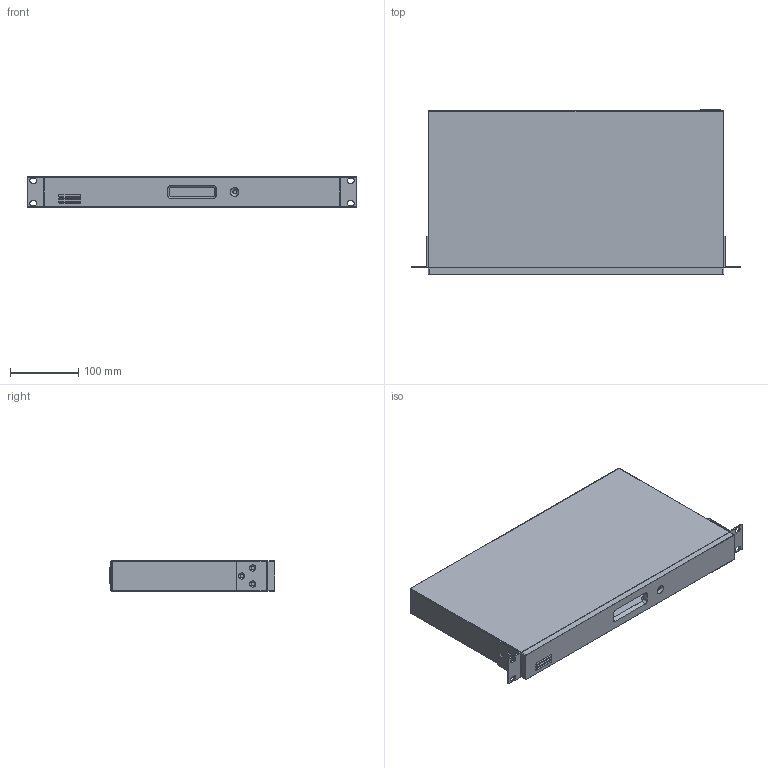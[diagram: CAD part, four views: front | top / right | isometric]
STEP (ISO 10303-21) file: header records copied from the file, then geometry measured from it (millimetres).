
FILE_DESCRIPTION(('FreeCAD Model'),'2;1');
FILE_NAME('Y:/3-AV-Parts-Sales/Produkte/nexgentec/NGTC-0404NX/drawings/NGTC-0404NX complete.step','2020-11-13T15:01:15',('Author'),(''), 'Open CASCADE STEP processor 7.3','FreeCAD','Unknown');
FILE_SCHEMA(('AUTOMOTIVE_DESIGN { 1 0 10303 214 1 1 1 1 }'));
Length unit declared in the file: millimetre
Products named in the file (13): Body_ARC_RJ45; power_socket_240V_body; RS-232; USB_Audio_socket; Logic_Outputs_/_Ext_CTRL_Inputs; NGTC-0404NX_-_Body; 1280NX_&_Prism_front; Brackets_-_1280NX_&_Prisms; Brackets_-_1280NX_&_Prisms001; quad_network_port; USB_Host_socket; Analog_MIC/Line_Inputs; Analog_Line_Outputs
Bounding box: 483 x 242 x 44 mm (x, y, z)
Volume: 338664.8 mm3; surface area: 557455 mm2
Topology: 13 solids, 13 shells, 1307 faces, 3309 edges, 2100 vertices
Faces by surface type: plane 1067, cylinder 132, cone 94, sphere 8, torus 6
Full cylindrical faces by diameter (mm): 2.1 x4, 2.5 x4, 3 x1, 5 x14, 5.6 x1
Entity records: 81951 total; most frequent: CARTESIAN_POINT 14005, DIRECTION 12774, LINE 9293, VECTOR 9293, ORIENTED_EDGE 6602, PCURVE 6602, DEFINITIONAL_REPRESENTATION 6602, EDGE_CURVE 3301
